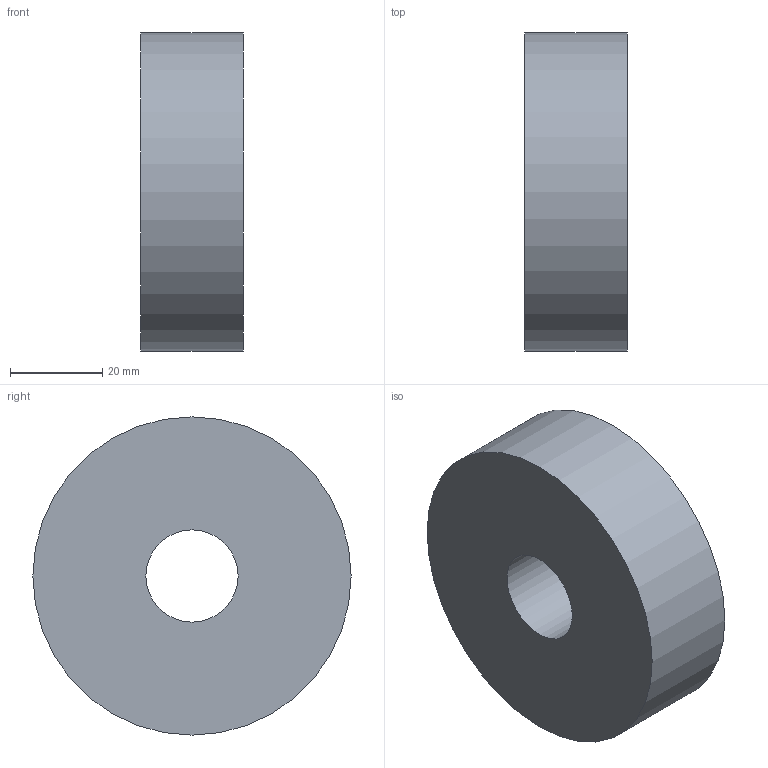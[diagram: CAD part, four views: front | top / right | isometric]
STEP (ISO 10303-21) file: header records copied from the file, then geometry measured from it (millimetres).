
FILE_DESCRIPTION(('Open CASCADE Model'),'2;1');
FILE_NAME('Open CASCADE Shape Model','2026-11-02T23:22:41',('Author'),( 'Open CASCADE'),'Open CASCADE STEP processor 7.9','Open CASCADE 7.9' ,'Unknown');
FILE_SCHEMA(('AUTOMOTIVE_DESIGN { 1 0 10303 214 1 1 1 1 }'));
Length unit declared in the file: millimetre
Products named in the file (1): Open CASCADE STEP translator 7.9 15
Bounding box: 22.3 x 69 x 69 mm (x, y, z)
Volume: 76380.2 mm3; surface area: 13085.4 mm2
Topology: 1 solids, 1 shells, 4 faces, 6 edges, 4 vertices
Faces by surface type: cylinder 2, plane 2
Full cylindrical faces by diameter (mm): 20 x1, 69 x1
Entity records: 192 total; most frequent: CARTESIAN_POINT 39, DIRECTION 30, ORIENTED_EDGE 12, PCURVE 12, DEFINITIONAL_REPRESENTATION 12, LINE 10, VECTOR 10, AXIS2_PLACEMENT_3D 9
